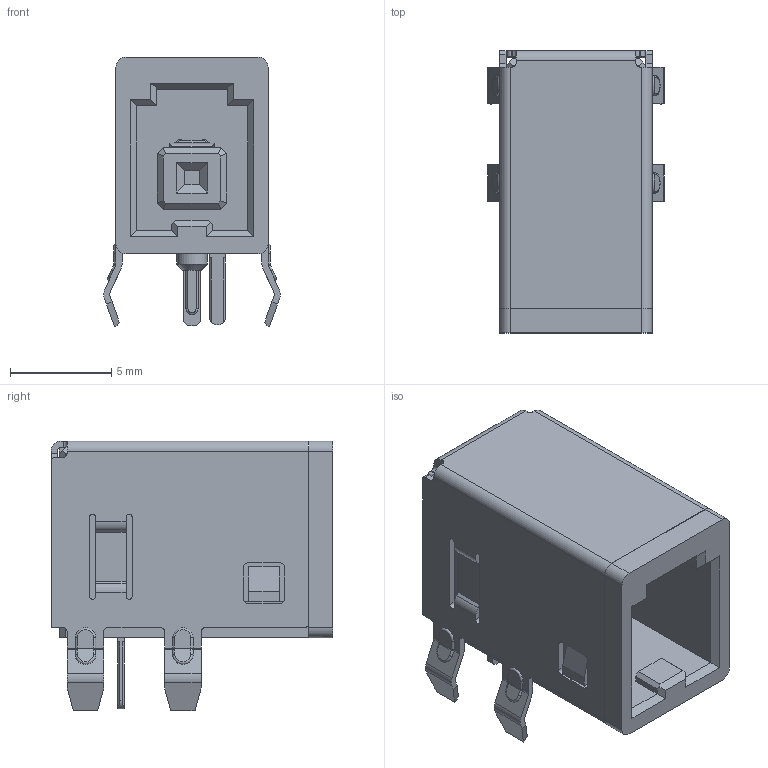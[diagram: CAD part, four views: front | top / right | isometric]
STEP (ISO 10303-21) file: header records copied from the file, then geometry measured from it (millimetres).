
FILE_DESCRIPTION((''),'2;1');
FILE_NAME('CSS5001-7M11F_SW131028','2015-01-13T',('tomoki-t'),(''),'PRO/ENGINEER BY PARAMETRIC TECHNOLOGY CORPORATION, 2013230','PRO/ENGINEER BY PARAMETRIC TECHNOLOGY CORPORATION, 2013230','');
FILE_SCHEMA(('AUTOMOTIVE_DESIGN { 1 0 10303 214 1 1 1 1 }'));
Length unit declared in the file: millimetre
Products named in the file (1): CSS5001-7M11F_SW131028
Bounding box: 8.7 x 13.9 x 13.3 mm (x, y, z)
Volume: 660 mm3; surface area: 1622.7 mm2
Topology: 1 solids, 2 shells, 543 faces, 1468 edges, 927 vertices
Faces by surface type: plane 327, cylinder 164, torus 33, bspline 13, sphere 4, cone 2
Entity records: 24121 total; most frequent: CARTESIAN_POINT 3738, ORIENTED_EDGE 2936, DIRECTION 2849, EDGE_CURVE 1468, VECTOR 1075, LINE 1075, FILL_AREA_STYLE_COLOUR 1031, FILL_AREA_STYLE 1031
